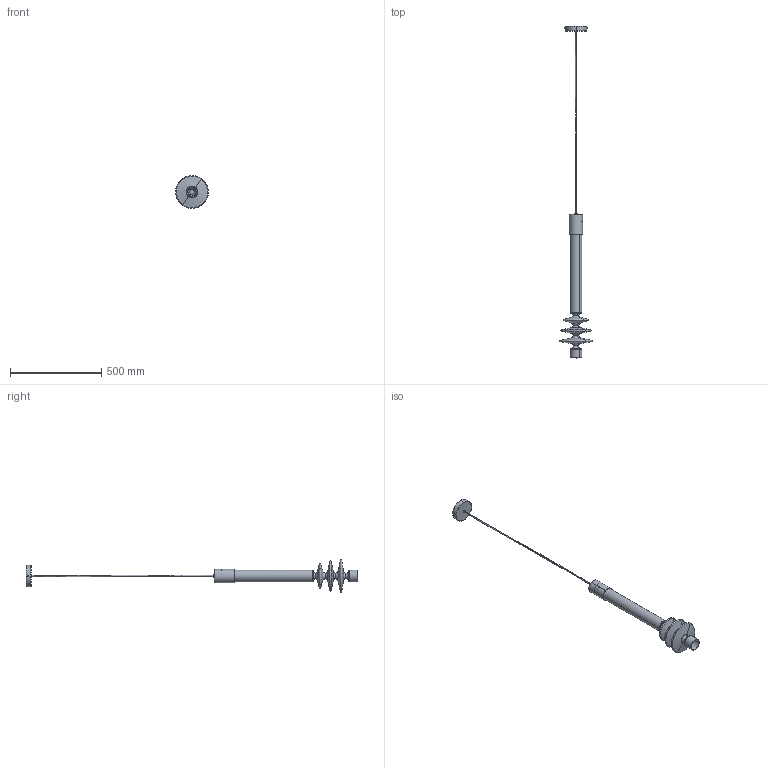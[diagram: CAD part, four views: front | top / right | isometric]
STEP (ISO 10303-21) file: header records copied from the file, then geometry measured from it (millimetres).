
FILE_DESCRIPTION (( 'STEP AP203' ), '1' );
FILE_NAME ('Filamento Vertical 79.STEP', '2026-04-30T09:34:27', ( '' ), ( '' ), 'SwSTEP 2.0', 'SolidWorks 2025', '' );
FILE_SCHEMA (( 'CONFIG_CONTROL_DESIGN' ));
Length unit declared in the file: millimetre
Products named in the file (13): ATA-X21-S604-R00 - Architetti; Nipplo Steab 5475xx_NIPPLO M10x1 H.7 NERO; ATA-X21-S601-R00 - Architetti; ATA-A06-S000-R00 - Architetti; Lamp. Halopar GU10 - GZ10 Osram_LAMPADA GU10 50W 220V; Filamento Vertical 79; ATC-X21-S601-R00; Nipplo Steab 5475xx_NIPPLO M10x1 H.7 TRASP.; ATC-X21-S690-R00; ATC-A06-S012-R00 - Architetti_Default<A macchina>; Vite a Testa Svasata Piana Cava Esagonale UNI-5933_VITE M3X6 TSPCE UNI-5933; Viti a Testa Bombata e Cava Esagonale ISO-7380_VITE M4X12 TBCE ISO-7380 ; ATC-X21-S604-R00 - Architetti
Assembly tree (14 placements, depth 4):
  Filamento Vertical 79
    ATA-X21-S604-R00 - Architetti
      Lamp. Halopar GU10 - GZ10 Osram_LAMPADA GU10 50W 220V
      Nipplo Steab 5475xx_NIPPLO M10x1 H.7 TRASP.
      Vite a Testa Svasata Piana Cava Esagonale UNI-5933_VITE M3X6 TSPCE UNI-5933  x2
      ATC-X21-S604-R00 - Architetti
      ATC-X21-S690-R00
      ATA-A06-S000-R00 - Architetti
        Viti a Testa Bombata e Cava Esagonale ISO-7380_VITE M4X12 TBCE ISO-7380   x2
        Nipplo Steab 5475xx_NIPPLO M10x1 H.7 NERO
        ATC-A06-S012-R00 - Architetti_Default<A macchina>
    ATA-X21-S601-R00 - Architetti
      ATC-X21-S601-R00
Bounding box: 179.66 x 1822 x 179.66 mm (x, y, z)
Volume: 819352.3 mm3; surface area: 622735.6 mm2
Topology: 12 solids, 12 shells, 282 faces, 597 edges, 350 vertices
Faces by surface type: cylinder 85, plane 67, torus 66, cone 58, bspline 6
Entity records: 8838 total; most frequent: CARTESIAN_POINT 1940, DIRECTION 1313, ORIENTED_EDGE 1030, AXIS2_PLACEMENT_3D 567, EDGE_CURVE 515, CIRCLE 308, VERTEX_POINT 302, EDGE_LOOP 281
